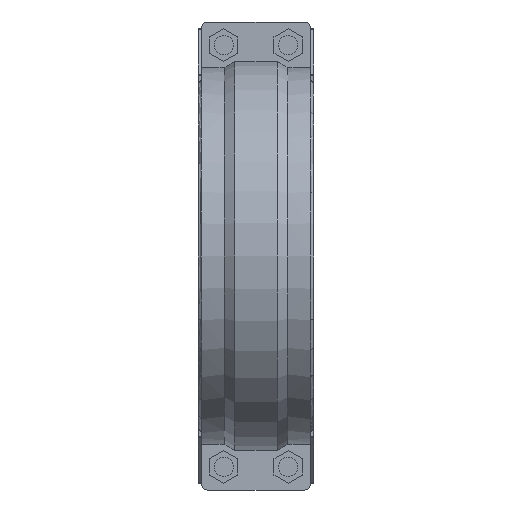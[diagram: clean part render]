
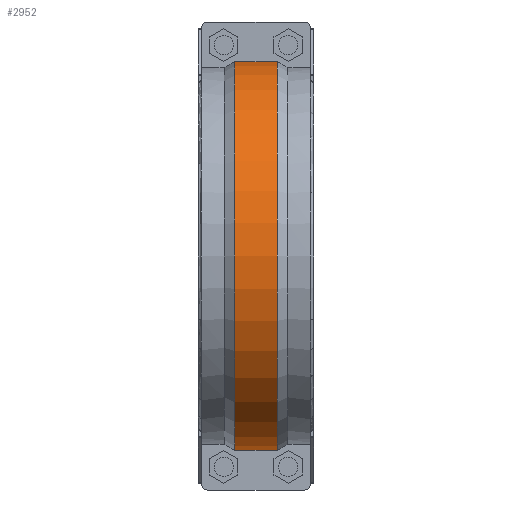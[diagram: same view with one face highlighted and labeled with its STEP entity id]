
A CAD part, front view. The second image highlights one B-rep face of the part: STEP entity #2952.
In plain terms, the highlighted cylindrical face has radius 192.104 mm (diameter 384.208 mm), a partial arc.
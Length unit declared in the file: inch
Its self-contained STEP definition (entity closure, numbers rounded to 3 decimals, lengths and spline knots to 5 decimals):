
#341=FACE_OUTER_BOUND('',#515,.T.);
#515=EDGE_LOOP('',(#2506,#2507,#2508,#2509));
#632=LINE('',#4413,#899);
#792=LINE('',#4917,#1059);
#899=VECTOR('',#3534,0.3937);
#1059=VECTOR('',#3972,0.3937);
#1121=CIRCLE('',#3119,7.56316);
#1155=CIRCLE('',#3218,7.56316);
#1269=VERTEX_POINT('',#4408);
#1270=VERTEX_POINT('',#4412);
#1315=VERTEX_POINT('',#4597);
#1414=VERTEX_POINT('',#4913);
#1571=EDGE_CURVE('',#1270,#1269,#632,.T.);
#1642=EDGE_CURVE('',#1315,#1269,#1121,.T.);
#1796=EDGE_CURVE('',#1315,#1414,#792,.T.);
#1803=EDGE_CURVE('',#1414,#1270,#1155,.T.);
#2506=ORIENTED_EDGE('',*,*,#1571,.T.);
#2507=ORIENTED_EDGE('',*,*,#1642,.F.);
#2508=ORIENTED_EDGE('',*,*,#1796,.T.);
#2509=ORIENTED_EDGE('',*,*,#1803,.T.);
#2648=CYLINDRICAL_SURFACE('',#3217,7.56316);
#2952=ADVANCED_FACE('',(#341),#2648,.T.);
#3119=AXIS2_PLACEMENT_3D('',#4601,#3669,#3670);
#3217=AXIS2_PLACEMENT_3D('',#4931,#3991,#3992);
#3218=AXIS2_PLACEMENT_3D('',#4932,#3993,#3994);
#3534=DIRECTION('',(1.,0.,0.));
#3669=DIRECTION('center_axis',(1.,0.,0.));
#3670=DIRECTION('ref_axis',(0.,0.,-1.));
#3972=DIRECTION('',(-1.,0.,0.));
#3991=DIRECTION('center_axis',(1.,0.,0.));
#3992=DIRECTION('ref_axis',(0.,-1.,0.));
#3993=DIRECTION('center_axis',(1.,0.,0.));
#3994=DIRECTION('ref_axis',(0.,0.,-1.));
#4408=CARTESIAN_POINT('',(0.825,-0.3125,-7.5567));
#4412=CARTESIAN_POINT('',(-0.825,-0.3125,-7.5567));
#4413=CARTESIAN_POINT('',(0.4125,-0.3125,-7.5567));
#4597=CARTESIAN_POINT('',(0.825,-0.3125,7.5567));
#4601=CARTESIAN_POINT('Origin',(0.825,0.,0.));
#4913=CARTESIAN_POINT('',(-0.825,-0.3125,7.5567));
#4917=CARTESIAN_POINT('',(0.4125,-0.3125,7.5567));
#4931=CARTESIAN_POINT('Origin',(0.4125,0.,0.));
#4932=CARTESIAN_POINT('Origin',(-0.825,0.,0.));
